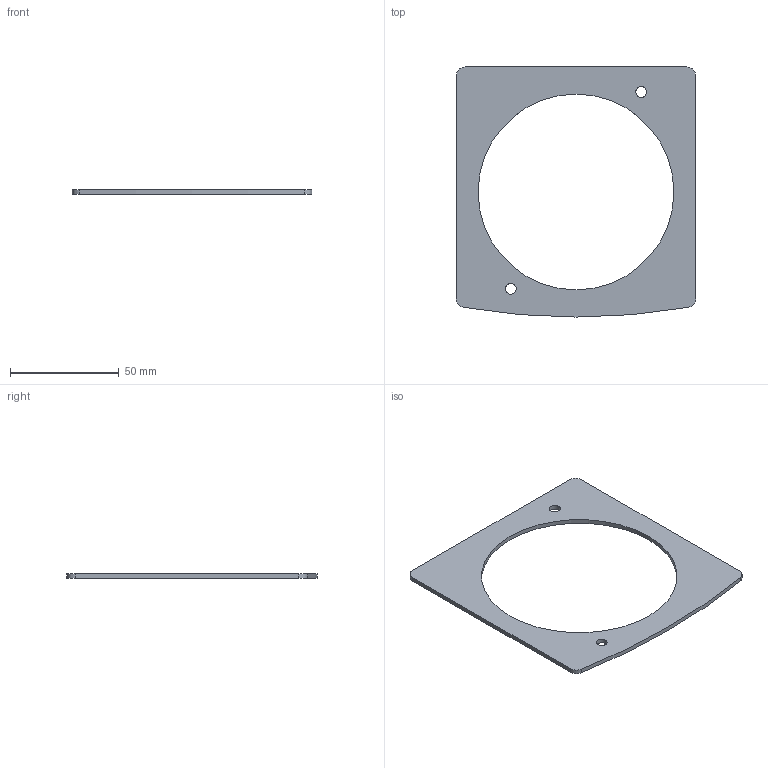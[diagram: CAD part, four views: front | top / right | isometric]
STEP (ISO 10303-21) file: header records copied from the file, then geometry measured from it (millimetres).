
FILE_DESCRIPTION(/* description */ ('STEP AP242','CAx-IF Rec.Pracs.---Representation and Presentation of Product Manufacturing Information (PMI)---4.0---2014-10-13','CAx-IF Rec.Pracs.---3D Tessellated Geometry---0.4---2014-09-14','2;1'),/* implementation_level */ '2;1');
FILE_NAME(/* name */ '676d3d16a686895630a1f90a',/* time_stamp */ '2024-12-26T11:25:11Z',/* author */ (''),/* organization */ (''),/* preprocessor_version */ 'ST-DEVELOPER v20',/* originating_system */ 'ONSHAPE BY PTC INC, 1.191',/* authorisation */ ' ');
FILE_SCHEMA (('AP242_MANAGED_MODEL_BASED_3D_ENGINEERING_MIM_LF { 1 0 10303 442 1 1 4 }'));
Length unit declared in the file: metre
Products named in the file (1): Seal2
Bounding box: 110 x 115 x 2 mm (x, y, z)
Volume: 12103.7 mm3; surface area: 13601.6 mm2
Topology: 1 solids, 1 shells, 13 faces, 35 edges, 24 vertices
Faces by surface type: cylinder 8, plane 5
Full cylindrical faces by diameter (mm): 5 x2, 90 x1
Entity records: 422 total; most frequent: DIRECTION 74, CARTESIAN_POINT 66, ORIENTED_EDGE 60, EDGE_CURVE 30, AXIS2_PLACEMENT_3D 30, VERTEX_POINT 22, EDGE_LOOP 22, FACE_BOUND 22
